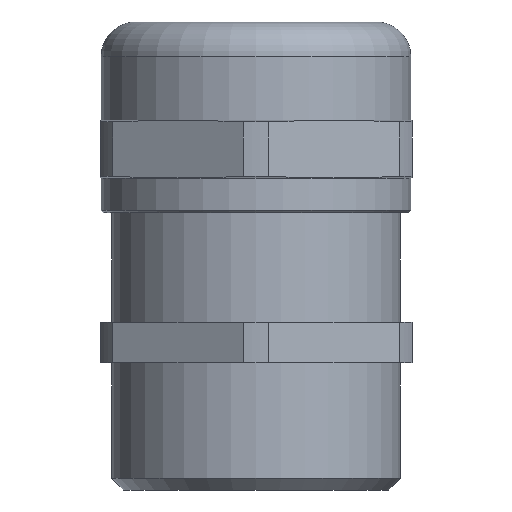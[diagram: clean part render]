
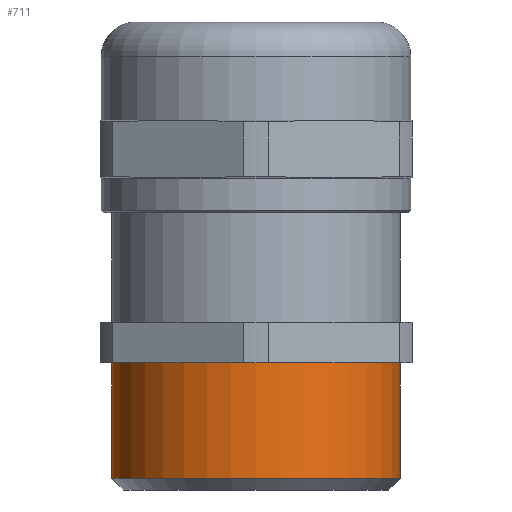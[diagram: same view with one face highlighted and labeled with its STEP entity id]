
A CAD part, front view. The second image highlights one B-rep face of the part: STEP entity #711.
In plain terms, the highlighted cylindrical face has radius 12.5 mm (diameter 25 mm), a partial arc.
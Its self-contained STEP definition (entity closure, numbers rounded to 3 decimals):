
#3 = VERTEX_POINT ( 'NONE', #1045 ) ;
#21 = VERTEX_POINT ( 'NONE', #1035 ) ;
#243 = VERTEX_POINT ( 'NONE', #2780 ) ;
#293 = VERTEX_POINT ( 'NONE', #1436 ) ;
#322 = EDGE_CURVE ( 'NONE', #21, #3, #1500, .T. ) ;
#325 = EDGE_CURVE ( 'NONE', #293, #243, #1539, .T. ) ;
#710 = EDGE_CURVE ( 'NONE', #243, #3, #2142, .T. ) ;
#711 = ADVANCED_FACE ( 'NONE', ( #2137 ), #2136, .T. ) ;
#712 = EDGE_LOOP ( 'NONE', ( #713, #714, #716, #717 ) ) ;
#713 = ORIENTED_EDGE ( 'NONE', *, *, #325, .F. ) ;
#714 = ORIENTED_EDGE ( 'NONE', *, *, #715, .T. ) ;
#715 = EDGE_CURVE ( 'NONE', #293, #21, #2135, .T. ) ;
#716 = ORIENTED_EDGE ( 'NONE', *, *, #322, .T. ) ;
#717 = ORIENTED_EDGE ( 'NONE', *, *, #710, .F. ) ;
#1035 = CARTESIAN_POINT ( 'NONE',  ( -12.5, 0., 11. ) ) ;
#1045 = CARTESIAN_POINT ( 'NONE',  ( -12.5, 0., 1. ) ) ;
#1436 = CARTESIAN_POINT ( 'NONE',  ( 12.5, 0., 11. ) ) ;
#1495 = DIRECTION ( 'NONE',  ( 0., 0., -1. ) ) ;
#1496 = VECTOR ( 'NONE', #1495, 1000. ) ;
#1497 = CARTESIAN_POINT ( 'NONE',  ( 12.5, 0., 0. ) ) ;
#1498 = DIRECTION ( 'NONE',  ( 0., 0., -1. ) ) ;
#1499 = CARTESIAN_POINT ( 'NONE',  ( -12.5, 0., 0. ) ) ;
#1500 = LINE ( 'NONE', #1499, #1520 ) ;
#1520 = VECTOR ( 'NONE', #1498, 1000. ) ;
#1539 = LINE ( 'NONE', #1497, #1496 ) ;
#2127 = DIRECTION ( 'NONE',  ( -1., 0., 0. ) ) ;
#2128 = DIRECTION ( 'NONE',  ( 0., 0., -1. ) ) ;
#2129 = CARTESIAN_POINT ( 'NONE',  ( 0., 0., 11. ) ) ;
#2130 = AXIS2_PLACEMENT_3D ( 'NONE', #2129, #2128, #2127 ) ;
#2131 = DIRECTION ( 'NONE',  ( -1., 0., 0. ) ) ;
#2132 = DIRECTION ( 'NONE',  ( 0., 0., -1. ) ) ;
#2133 = CARTESIAN_POINT ( 'NONE',  ( 0., 0., 0. ) ) ;
#2134 = AXIS2_PLACEMENT_3D ( 'NONE', #2133, #2132, #2131 ) ;
#2135 = CIRCLE ( 'NONE', #2130, 12.5 ) ;
#2136 = CYLINDRICAL_SURFACE ( 'NONE', #2134, 12.5 ) ;
#2137 = FACE_OUTER_BOUND ( 'NONE', #712, .T. ) ;
#2138 = DIRECTION ( 'NONE',  ( -1., 0., 0. ) ) ;
#2139 = DIRECTION ( 'NONE',  ( 0., 0., -1. ) ) ;
#2140 = CARTESIAN_POINT ( 'NONE',  ( 0., 0., 1. ) ) ;
#2141 = AXIS2_PLACEMENT_3D ( 'NONE', #2140, #2139, #2138 ) ;
#2142 = CIRCLE ( 'NONE', #2141, 12.5 ) ;
#2780 = CARTESIAN_POINT ( 'NONE',  ( 12.5, 0., 1. ) ) ;
